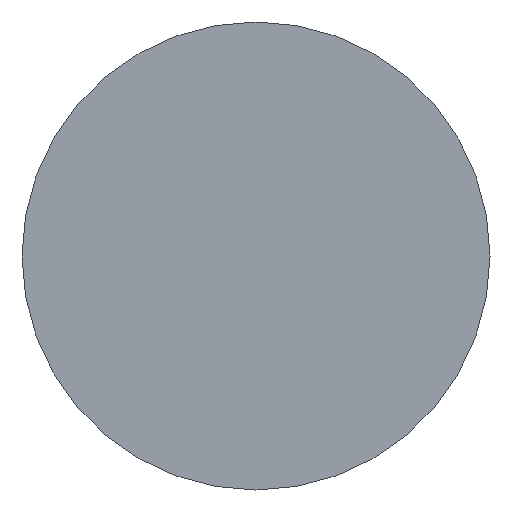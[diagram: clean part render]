
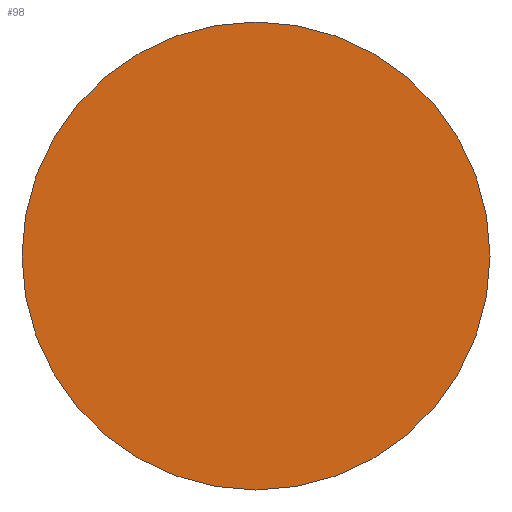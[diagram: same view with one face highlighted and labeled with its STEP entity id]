
A CAD part, left-side view. The second image highlights one B-rep face of the part: STEP entity #98.
In plain terms, the highlighted planar face has unit normal (-1, 0, 0).
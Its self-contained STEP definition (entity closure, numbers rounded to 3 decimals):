
#4 = VERTEX_POINT ( 'NONE', #248 ) ;
#19 = CARTESIAN_POINT ( 'NONE',  ( 0., 0., 1.25 ) ) ;
#30 = DIRECTION ( 'NONE',  ( -1., 0., 0. ) ) ;
#36 = CARTESIAN_POINT ( 'NONE',  ( 0., 0., 0. ) ) ;
#38 = DIRECTION ( 'NONE',  ( 0., 0., 1. ) ) ;
#59 = DIRECTION ( 'NONE',  ( -1., 0., 0. ) ) ;
#60 = DIRECTION ( 'NONE',  ( 0., 0., 1. ) ) ;
#66 = ORIENTED_EDGE ( 'NONE', *, *, #268, .T. ) ;
#77 = CIRCLE ( 'NONE', #78, 1.25 ) ;
#78 = AXIS2_PLACEMENT_3D ( 'NONE', #243, #30, #38 ) ;
#93 = AXIS2_PLACEMENT_3D ( 'NONE', #36, #59, #60 ) ;
#98 = ADVANCED_FACE ( 'NONE', ( #126 ), #204, .F. ) ;
#102 = AXIS2_PLACEMENT_3D ( 'NONE', #166, #139, #143 ) ;
#121 = VERTEX_POINT ( 'NONE', #19 ) ;
#126 = FACE_OUTER_BOUND ( 'NONE', #191, .T. ) ;
#139 = DIRECTION ( 'NONE',  ( 1., 0., 0. ) ) ;
#143 = DIRECTION ( 'NONE',  ( 0., 0., -1. ) ) ;
#153 = EDGE_CURVE ( 'NONE', #121, #4, #251, .T. ) ;
#166 = CARTESIAN_POINT ( 'NONE',  ( 0., 0., 0. ) ) ;
#191 = EDGE_LOOP ( 'NONE', ( #271, #66 ) ) ;
#204 = PLANE ( 'NONE',  #102 ) ;
#243 = CARTESIAN_POINT ( 'NONE',  ( 0., 0., 0. ) ) ;
#248 = CARTESIAN_POINT ( 'NONE',  ( 0., 0., -1.25 ) ) ;
#251 = CIRCLE ( 'NONE', #93, 1.25 ) ;
#268 = EDGE_CURVE ( 'NONE', #4, #121, #77, .T. ) ;
#271 = ORIENTED_EDGE ( 'NONE', *, *, #153, .T. ) ;
